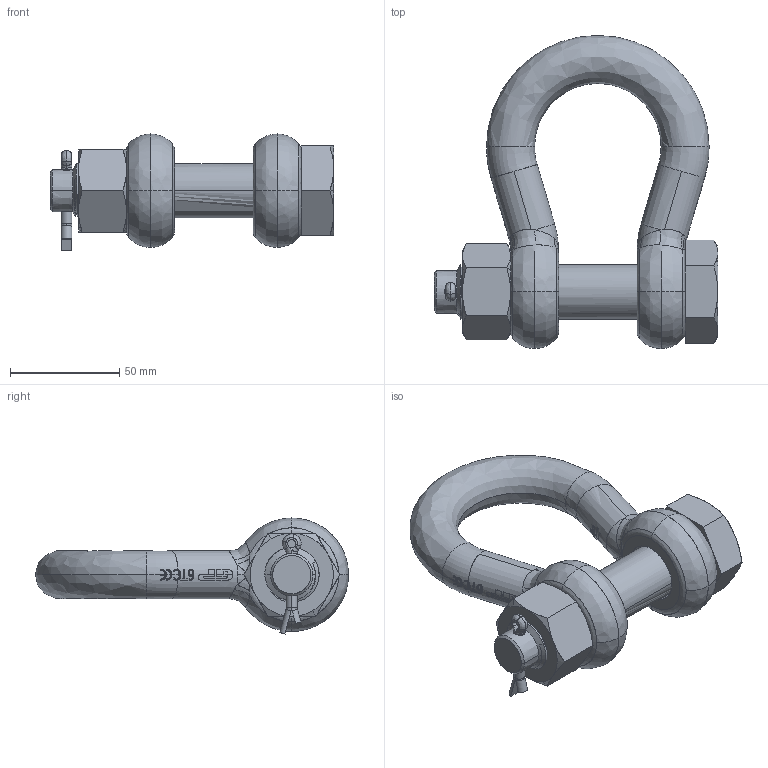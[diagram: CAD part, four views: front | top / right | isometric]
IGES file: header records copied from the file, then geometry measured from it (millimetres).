
Start section: START RECORD GO HERE.
Global section: file name: 6,5.igs; native system: Solidworks 2009                             ; preprocessor: Solidworks 2009            ; author: v.b.; organization: P4; date: 20090807.082519; units: millimetre
Bounding box: 130 x 143.5 x 53.17 mm (x, y, z)
Surface area: 51809.9 mm2 (no closed solid volume)
Topology: 0 solids, 0 shells, 718 faces, 4434 edges, 4426 vertices
Faces by surface type: bspline 312, plane 234, revolution 172
